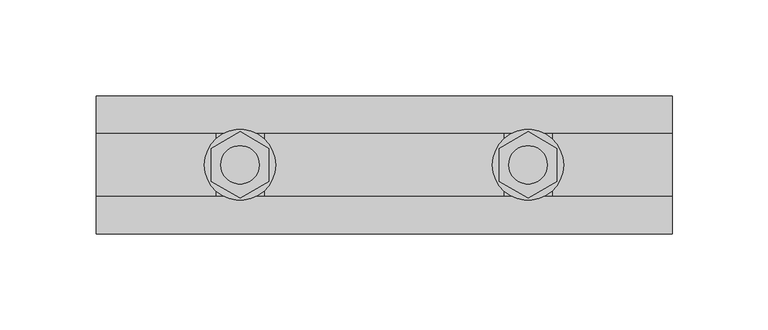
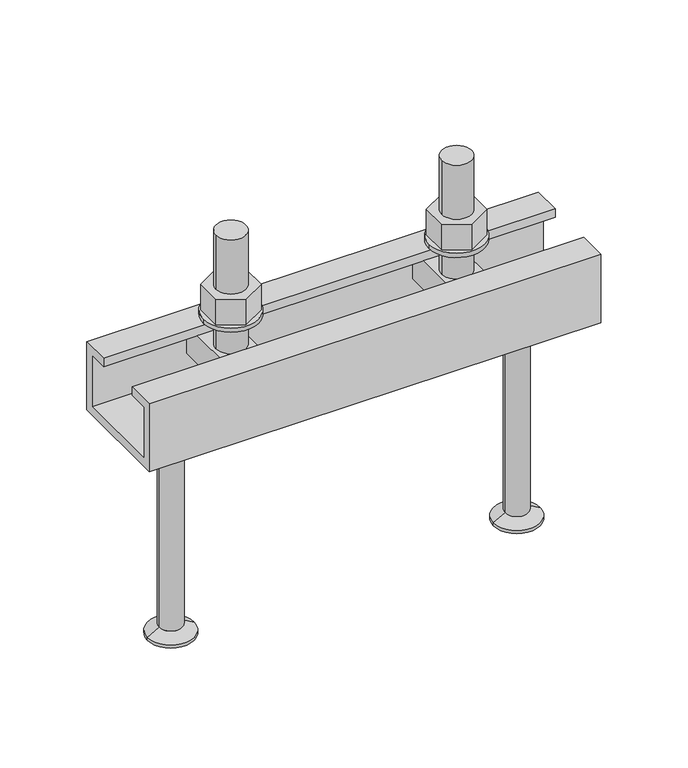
"""IFC4 building model written with IfcOpenShell, lengths in millimetres: fastener geometry, JTA-K JORDAHL® AnchorChannels : JTA-K L=300 mm."""

from ifc_helpers import new_model, si_unit, point, frame, frame_2d, origin, place, context, project, spatial, polyline, circle_curve, trimmed, segment, composite_curve, outline, extrude, source, transform, mapped, element, save
from ifc_brep_helpers import plane_surface, cylinder_surface, revolved_surface, advanced_brep


def fastener_e5733688(model_context):
    return source(origin(), model_context, "Body", "SolidModel", [
        extrude(outline(polyline([(225.0, -17.3205081), (210.0, -8.660254), (210.0, 8.660254), (225.0, 17.3205081), (240.0, 8.660254), (240.0, -8.660254), (225.0, -17.3205081)]), holes=[composite_curve([segment(trimmed(circle_curve(frame_2d((225.0, 0.0)), 10.0), [point((215.0, 0.0))], [point((235.0, 0.0))], True, "CARTESIAN"), True, "CONTINUOUS"), segment(trimmed(circle_curve(frame_2d((225.0, 0.0)), 10.0), [point((235.0, 0.0))], [point((215.0, 0.0))], True, "CARTESIAN"), True, "CONTINUOUS")], self_intersect=False)]), frame((0.0, 0.0, 18.0), z_axis=(0.0, 0.0, 1.0), x_axis=(1.0, 0.0, 0.0)), (0.0, 0.0, 1.0), 18.0),
        extrude(outline(composite_curve([segment(trimmed(circle_curve(frame_2d((225.0, 0.0)), 18.5), [point((206.5, 0.0))], [point((243.5, 0.0))], False, "CARTESIAN"), True, "CONTINUOUS"), segment(trimmed(circle_curve(frame_2d((225.0, 0.0)), 18.5), [point((243.5, 0.0))], [point((206.5, 0.0))], False, "CARTESIAN"), True, "CONTINUOUS")], self_intersect=False), holes=[composite_curve([segment(trimmed(circle_curve(frame_2d((225.0, 0.0)), 10.5), [point((214.5, 0.0))], [point((235.5, 0.0))], True, "CARTESIAN"), True, "CONTINUOUS"), segment(trimmed(circle_curve(frame_2d((225.0, 0.0)), 10.5), [point((235.5, 0.0))], [point((214.5, 0.0))], True, "CARTESIAN"), True, "CONTINUOUS")], self_intersect=False)]), frame((0.0, 0.0, 15.0), z_axis=(0.0, 0.0, 1.0), x_axis=(1.0, 0.0, 0.0)), (0.0, 0.0, 1.0), 3.0),
        extrude(outline(polyline([(75.0, -17.3205081), (60.0, -8.660254), (60.0, 8.660254), (75.0, 17.3205081), (90.0, 8.660254), (90.0, -8.660254), (75.0, -17.3205081)]), holes=[composite_curve([segment(trimmed(circle_curve(frame_2d((75.0, 0.0)), 10.0), [point((65.0, 0.0))], [point((85.0, 0.0))], True, "CARTESIAN"), True, "CONTINUOUS"), segment(trimmed(circle_curve(frame_2d((75.0, 0.0)), 10.0), [point((85.0, 0.0))], [point((65.0, 0.0))], True, "CARTESIAN"), True, "CONTINUOUS")], self_intersect=False)]), frame((0.0, 0.0, 18.0), z_axis=(0.0, 0.0, 1.0), x_axis=(1.0, 0.0, 0.0)), (0.0, 0.0, 1.0), 18.0),
        extrude(outline(composite_curve([segment(trimmed(circle_curve(frame_2d((75.0, 0.0)), 18.5), [point((56.5, 0.0))], [point((93.5, 0.0))], False, "CARTESIAN"), True, "CONTINUOUS"), segment(trimmed(circle_curve(frame_2d((75.0, 0.0)), 18.5), [point((93.5, 0.0))], [point((56.5, 0.0))], False, "CARTESIAN"), True, "CONTINUOUS")], self_intersect=False), holes=[composite_curve([segment(trimmed(circle_curve(frame_2d((75.0, 0.0)), 10.5), [point((64.5, 0.0))], [point((85.5, 0.0))], True, "CARTESIAN"), True, "CONTINUOUS"), segment(trimmed(circle_curve(frame_2d((75.0, 0.0)), 10.5), [point((85.5, 0.0))], [point((64.5, 0.0))], True, "CARTESIAN"), True, "CONTINUOUS")], self_intersect=False)]), frame((0.0, 0.0, 15.0), z_axis=(0.0, 0.0, 1.0), x_axis=(1.0, 0.0, 0.0)), (0.0, 0.0, 1.0), 3.0),
        advanced_brep(
        [(237.5, -29.0, -6.0), (237.5, -29.0, -26.0), (237.5, 29.0, -26.0), (237.5, 29.0, -6.0), (212.5, -29.0, -6.0), (212.5, 29.0, -6.0), (212.5, 29.0, -26.0), (212.5, -29.0, -26.0), (235.0, 0.0, -6.0), (215.0, 0.0, -6.0), (215.0, 0.0, 74.0), (235.0, 0.0, 74.0)],
        [
            (0, 1),
            (1, 2),
            (2, 3),
            (3, 0),
            (4, 5),
            (5, 6),
            (6, 7),
            (7, 4),
            (3, 5),
            (4, 0),
            (8, 9, circle_curve(frame((225.0, 0.0, -6.0), z_axis=(0.0, 0.0, -1.0), x_axis=(1.0, 0.0, 0.0)), 10.0)),
            (9, 8, circle_curve(frame((225.0, 0.0, -6.0), z_axis=(0.0, 0.0, -1.0), x_axis=(1.0, 0.0, 0.0)), 10.0)),
            (2, 6),
            (1, 7),
            (10, 11, circle_curve(frame((225.0, 0.0, 74.0), z_axis=(0.0, 0.0, 1.0), x_axis=(1.0, 0.0, 0.0)), 10.0)),
            (11, 10, circle_curve(frame((225.0, 0.0, 74.0), z_axis=(0.0, 0.0, 1.0), x_axis=(1.0, 0.0, 0.0)), 10.0)),
            (11, 8),
            (9, 10),
        ],
        [
            plane_surface(frame((237.5, 29.0, -6.0), z_axis=(1.0, 0.0, 0.0), x_axis=(0.0, 1.0, 0.0))),
            plane_surface(frame((212.5, 29.0, -6.0), z_axis=(-1.0, 0.0, 0.0), x_axis=(0.0, -1.0, 0.0))),
            plane_surface(frame((237.5, -29.0, -6.0), z_axis=(0.0, 0.0, 1.0), x_axis=(-1.0, 0.0, 0.0))),
            plane_surface(frame((237.5, 29.0, -6.0), z_axis=(0.0, 1.0, 0.0), x_axis=(-1.0, 0.0, 0.0))),
            plane_surface(frame((237.5, 29.0, -26.0), z_axis=(0.0, 0.0, -1.0), x_axis=(-1.0, 0.0, 0.0))),
            plane_surface(frame((237.5, -29.0, -26.0), z_axis=(0.0, -1.0, 0.0), x_axis=(-1.0, 0.0, 0.0))),
            plane_surface(frame((235.0, 0.0, 74.0), z_axis=(0.0, 0.0, 1.0), x_axis=(0.0, -1.0, 0.0))),
            cylinder_surface(frame((225.0, 0.0, -6.0), z_axis=(0.0, 0.0, 1.0), x_axis=(1.0, 0.0, 0.0)), 10.0),
        ],
        [
            (0, [[1, 2, 3, 4]]),
            (1, [[5, 6, 7, 8]]),
            (2, [[9, -5, 10, -4], [11, 12]]),
            (3, [[13, -6, -9, -3]]),
            (4, [[14, -7, -13, -2]]),
            (5, [[-10, -8, -14, -1]]),
            (6, [[15, 16]]),
            (7, [[17, -12, 18, -16]]),
            (7, [[-18, -11, -17, -15]]),
        ],
    ),
        advanced_brep(
        [(87.5, -29.0, -6.0), (87.5, -29.0, -26.0), (87.5, 29.0, -26.0), (87.5, 29.0, -6.0), (62.5, -29.0, -6.0), (62.5, 29.0, -6.0), (62.5, 29.0, -26.0), (62.5, -29.0, -26.0), (85.0, 0.0, -6.0), (65.0, 0.0, -6.0), (65.0, 0.0, 74.0), (85.0, 0.0, 74.0)],
        [
            (0, 1),
            (1, 2),
            (2, 3),
            (3, 0),
            (4, 5),
            (5, 6),
            (6, 7),
            (7, 4),
            (3, 5),
            (4, 0),
            (8, 9, circle_curve(frame((75.0, 0.0, -6.0), z_axis=(0.0, 0.0, -1.0), x_axis=(1.0, 0.0, 0.0)), 10.0)),
            (9, 8, circle_curve(frame((75.0, 0.0, -6.0), z_axis=(0.0, 0.0, -1.0), x_axis=(1.0, 0.0, 0.0)), 10.0)),
            (2, 6),
            (1, 7),
            (10, 11, circle_curve(frame((75.0, 0.0, 74.0), z_axis=(0.0, 0.0, 1.0), x_axis=(1.0, 0.0, 0.0)), 10.0)),
            (11, 10, circle_curve(frame((75.0, 0.0, 74.0), z_axis=(0.0, 0.0, 1.0), x_axis=(1.0, 0.0, 0.0)), 10.0)),
            (11, 8),
            (9, 10),
        ],
        [
            plane_surface(frame((87.5, 29.0, -6.0), z_axis=(1.0, 0.0, 0.0), x_axis=(0.0, 1.0, 0.0))),
            plane_surface(frame((62.5, 29.0, -6.0), z_axis=(-1.0, 0.0, 0.0), x_axis=(0.0, -1.0, 0.0))),
            plane_surface(frame((87.5, -29.0, -6.0), z_axis=(0.0, 0.0, 1.0), x_axis=(-1.0, 0.0, 0.0))),
            plane_surface(frame((87.5, 29.0, -6.0), z_axis=(0.0, 1.0, 0.0), x_axis=(-1.0, 0.0, 0.0))),
            plane_surface(frame((87.5, 29.0, -26.0), z_axis=(0.0, 0.0, -1.0), x_axis=(-1.0, 0.0, 0.0))),
            plane_surface(frame((87.5, -29.0, -26.0), z_axis=(0.0, -1.0, 0.0), x_axis=(-1.0, 0.0, 0.0))),
            plane_surface(frame((85.0, 0.0, 74.0), z_axis=(0.0, 0.0, 1.0), x_axis=(0.0, -1.0, 0.0))),
            cylinder_surface(frame((75.0, 0.0, -6.0), z_axis=(0.0, 0.0, 1.0), x_axis=(1.0, 0.0, 0.0)), 10.0),
        ],
        [
            (0, [[1, 2, 3, 4]]),
            (1, [[5, 6, 7, 8]]),
            (2, [[9, -5, 10, -4], [11, 12]]),
            (3, [[13, -6, -9, -3]]),
            (4, [[14, -7, -13, -2]]),
            (5, [[-10, -8, -14, -1]]),
            (6, [[15, 16]]),
            (7, [[17, -12, 18, -16]]),
            (7, [[-18, -11, -17, -15]]),
        ],
    ),
        advanced_brep(
        [(265.0, 0.0, -48.0), (242.0, 0.0, -48.0), (288.0, 0.0, -48.0), (249.5, 0.0, -195.0), (265.0, 0.0, -195.0), (280.5, 0.0, -195.0), (249.5, 0.0, -193.0), (280.5, 0.0, -193.0), (257.2, 0.0, -188.5544029), (272.8, 0.0, -188.5544029), (257.2, 0.0, -52.0), (272.8, 0.0, -52.0)],
        [
            (0, 1),
            (1, 2, circle_curve(frame((265.0, 0.0, -48.0), z_axis=(0.0, 0.0, 1.0), x_axis=(1.0, 0.0, 0.0)), 23.0)),
            (2, 0),
            (2, 1, circle_curve(frame((265.0, 0.0, -48.0), z_axis=(0.0, 0.0, 1.0), x_axis=(1.0, 0.0, 0.0)), 23.0)),
            (3, 4),
            (4, 5),
            (5, 3, circle_curve(frame((265.0, 0.0, -195.0), z_axis=(0.0, 0.0, -1.0), x_axis=(1.0, 0.0, 0.0)), 15.5)),
            (3, 5, circle_curve(frame((265.0, 0.0, -195.0), z_axis=(0.0, 0.0, -1.0), x_axis=(1.0, 0.0, 0.0)), 15.5)),
            (6, 3),
            (5, 7),
            (7, 6, circle_curve(frame((265.0, 0.0, -193.0), z_axis=(0.0, 0.0, -1.0), x_axis=(1.0, 0.0, 0.0)), 15.5)),
            (6, 7, circle_curve(frame((265.0, 0.0, -193.0), z_axis=(0.0, 0.0, -1.0), x_axis=(1.0, 0.0, 0.0)), 15.5)),
            (8, 6),
            (7, 9),
            (9, 8, circle_curve(frame((265.0, 0.0, -188.5544029), z_axis=(0.0, 0.0, -1.0), x_axis=(1.0, 0.0, 0.0)), 7.8)),
            (8, 9, circle_curve(frame((265.0, 0.0, -188.5544029), z_axis=(0.0, 0.0, -1.0), x_axis=(1.0, 0.0, 0.0)), 7.8)),
            (10, 8),
            (9, 11),
            (11, 10, circle_curve(frame((265.0, 0.0, -52.0), z_axis=(0.0, 0.0, -1.0), x_axis=(1.0, 0.0, 0.0)), 7.8)),
            (10, 11, circle_curve(frame((265.0, 0.0, -52.0), z_axis=(0.0, 0.0, -1.0), x_axis=(1.0, 0.0, 0.0)), 7.8)),
            (1, 10),
            (11, 2),
        ],
        [
            plane_surface(frame((265.0, 0.0, -48.0), z_axis=(0.0, 0.0, 1.0), x_axis=(1.0, 0.0, 0.0))),
            plane_surface(frame((265.0, 0.0, -195.0), z_axis=(0.0, 0.0, -1.0), x_axis=(1.0, 0.0, 0.0))),
            cylinder_surface(frame((265.0, 0.0, 2361.3150031), z_axis=(0.0, 0.0, 1.0), x_axis=(1.0, 0.0, 0.0)), 15.5),
            revolved_surface(polyline([(280.5, 0.0, -193.0), (272.8, 0.0, -188.5544029)]), (265.0, 0.0, 2361.3150031), (0.0, 0.0, 1.0)),
            cylinder_surface(frame((265.0, 0.0, 2361.3150031), z_axis=(0.0, 0.0, 1.0), x_axis=(1.0, 0.0, 0.0)), 7.8),
            revolved_surface(polyline([(272.8, 0.0, -52.0), (288.0, 0.0, -48.0)]), (265.0, 0.0, 2361.3150031), (0.0, 0.0, 1.0)),
        ],
        [
            (0, [[1, 2, 3]]),
            (0, [[-3, 4, -1]]),
            (1, [[5, 6, 7]]),
            (1, [[-6, -5, 8]]),
            (2, [[9, -7, 10, 11]]),
            (2, [[-10, -8, -9, 12]]),
            (3, [[13, -11, 14, 15]]),
            (3, [[-14, -12, -13, 16]]),
            (4, [[17, -15, 18, 19]]),
            (4, [[-18, -16, -17, 20]]),
            (5, [[21, -19, 22, -2]]),
            (5, [[-22, -20, -21, -4]]),
        ],
    ),
        advanced_brep(
        [(35.0, 0.0, -48.0), (12.0, 0.0, -48.0), (58.0, 0.0, -48.0), (19.5, 0.0, -195.0), (35.0, 0.0, -195.0), (50.5, 0.0, -195.0), (19.5, 0.0, -193.0), (50.5, 0.0, -193.0), (27.2, 0.0, -188.5544029), (42.8, 0.0, -188.5544029), (27.2, 0.0, -52.0), (42.8, 0.0, -52.0)],
        [
            (0, 1),
            (1, 2, circle_curve(frame((35.0, 0.0, -48.0), z_axis=(0.0, 0.0, 1.0), x_axis=(1.0, 0.0, 0.0)), 23.0)),
            (2, 0),
            (2, 1, circle_curve(frame((35.0, 0.0, -48.0), z_axis=(0.0, 0.0, 1.0), x_axis=(1.0, 0.0, 0.0)), 23.0)),
            (3, 4),
            (4, 5),
            (5, 3, circle_curve(frame((35.0, 0.0, -195.0), z_axis=(0.0, 0.0, -1.0), x_axis=(1.0, 0.0, 0.0)), 15.5)),
            (3, 5, circle_curve(frame((35.0, 0.0, -195.0), z_axis=(0.0, 0.0, -1.0), x_axis=(1.0, 0.0, 0.0)), 15.5)),
            (6, 3),
            (5, 7),
            (7, 6, circle_curve(frame((35.0, 0.0, -193.0), z_axis=(0.0, 0.0, -1.0), x_axis=(1.0, 0.0, 0.0)), 15.5)),
            (6, 7, circle_curve(frame((35.0, 0.0, -193.0), z_axis=(0.0, 0.0, -1.0), x_axis=(1.0, 0.0, 0.0)), 15.5)),
            (8, 6),
            (7, 9),
            (9, 8, circle_curve(frame((35.0, 0.0, -188.5544029), z_axis=(0.0, 0.0, -1.0), x_axis=(1.0, 0.0, 0.0)), 7.8)),
            (8, 9, circle_curve(frame((35.0, 0.0, -188.5544029), z_axis=(0.0, 0.0, -1.0), x_axis=(1.0, 0.0, 0.0)), 7.8)),
            (10, 8),
            (9, 11),
            (11, 10, circle_curve(frame((35.0, 0.0, -52.0), z_axis=(0.0, 0.0, -1.0), x_axis=(1.0, 0.0, 0.0)), 7.8)),
            (10, 11, circle_curve(frame((35.0, 0.0, -52.0), z_axis=(0.0, 0.0, -1.0), x_axis=(1.0, 0.0, 0.0)), 7.8)),
            (1, 10),
            (11, 2),
        ],
        [
            plane_surface(frame((35.0, 0.0, -48.0), z_axis=(0.0, 0.0, 1.0), x_axis=(1.0, 0.0, 0.0))),
            plane_surface(frame((35.0, 0.0, -195.0), z_axis=(0.0, 0.0, -1.0), x_axis=(1.0, 0.0, 0.0))),
            cylinder_surface(frame((35.0, 0.0, 2361.3150031), z_axis=(0.0, 0.0, 1.0), x_axis=(1.0, 0.0, 0.0)), 15.5),
            revolved_surface(polyline([(50.5, 0.0, -193.0), (42.8, 0.0, -188.5544029)]), (35.0, 0.0, 2361.3150031), (0.0, 0.0, 1.0)),
            cylinder_surface(frame((35.0, 0.0, 2361.3150031), z_axis=(0.0, 0.0, 1.0), x_axis=(1.0, 0.0, 0.0)), 7.8),
            revolved_surface(polyline([(42.8, 0.0, -52.0), (58.0, 0.0, -48.0)]), (35.0, 0.0, 2361.3150031), (0.0, 0.0, 1.0)),
        ],
        [
            (0, [[1, 2, 3]]),
            (0, [[-3, 4, -1]]),
            (1, [[5, 6, 7]]),
            (1, [[-6, -5, 8]]),
            (2, [[9, -7, 10, 11]]),
            (2, [[-10, -8, -9, 12]]),
            (3, [[13, -11, 14, 15]]),
            (3, [[-14, -12, -13, 16]]),
            (4, [[17, -15, 18, 19]]),
            (4, [[-18, -16, -17, 20]]),
            (5, [[21, -19, 22, -2]]),
            (5, [[-22, -20, -21, -4]]),
        ],
    ),
        extrude(outline(polyline([(-36.0, 0.0), (-16.5, 0.0), (-16.5, -6.0), (-30.0, -6.0), (-30.0, -42.0), (30.0, -42.0), (30.0, -6.0), (16.5, -6.0), (16.5, 0.0), (36.0, 0.0), (36.0, -48.0), (-36.0, -48.0), (-36.0, 0.0)])), frame((0.0, 0.0, 0.0), z_axis=(1.0, 0.0, 0.0), x_axis=(0.0, 1.0, 0.0)), (0.0, 0.0, 1.0), 300.0),
    ])


if __name__ == "__main__":
    model = new_model("IFC4")
    model_context = context("Model", 3, world=origin())
    ifc_project = project(units=[si_unit("LENGTHUNIT", "METRE", prefix="MILLI")], contexts=[model_context])
    site = spatial("IfcSite", under=ifc_project)
    building = spatial("IfcBuilding", under=site)
    placement = place(None, origin())
    fastener_shape = fastener_e5733688(model_context)
    element("IfcFastener", 1, ObjectType="JTA-K JORDAHL® AnchorChannels : JTA-K L=300 mm", at=placement, inside=building, context=model_context, shape_type="MappedRepresentation", body=[
        mapped(fastener_shape, transform((0.0, 0.0, 0.0), x_axis=(1.0, 0.0, 0.0), y_axis=(0.0, 1.0, 0.0), z_axis=(0.0, 0.0, 1.0))),
    ])
    save(model, "model.ifc")
